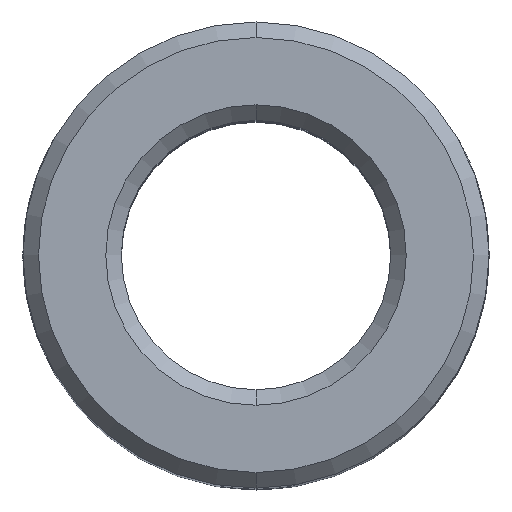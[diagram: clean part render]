
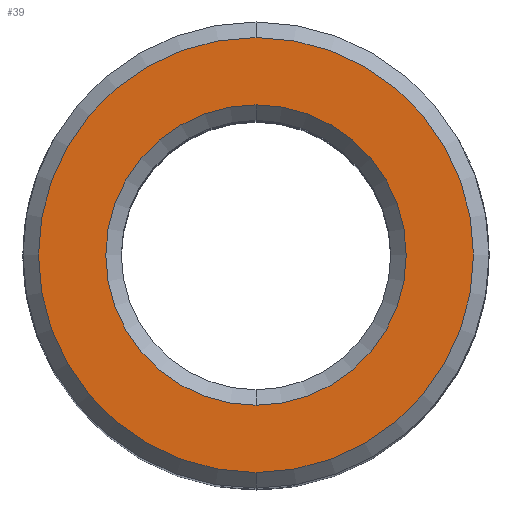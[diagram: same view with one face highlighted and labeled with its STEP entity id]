
A CAD part, top view. The second image highlights one B-rep face of the part: STEP entity #39.
In plain terms, the highlighted planar face has unit normal (0, 0, 1).
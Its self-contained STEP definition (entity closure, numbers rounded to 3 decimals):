
#36 = CARTESIAN_POINT ( 'NONE',  ( 0., 0., 0. ) ) ;
#38 = EDGE_LOOP ( 'NONE', ( #695, #1086 ) ) ;
#39 = ADVANCED_FACE ( 'NONE', ( #717, #691 ), #108, .F. ) ;
#81 = VERTEX_POINT ( 'NONE', #944 ) ;
#93 = CIRCLE ( 'NONE', #209, 29. ) ;
#108 = PLANE ( 'NONE',  #1098 ) ;
#141 = AXIS2_PLACEMENT_3D ( 'NONE', #1030, #195, #1136 ) ;
#181 = EDGE_LOOP ( 'NONE', ( #661, #699 ) ) ;
#190 = DIRECTION ( 'NONE',  ( 0., 1., 0. ) ) ;
#195 = DIRECTION ( 'NONE',  ( 0., 0., 1. ) ) ;
#209 = AXIS2_PLACEMENT_3D ( 'NONE', #1240, #1243, #1247 ) ;
#216 = EDGE_CURVE ( 'NONE', #628, #767, #560, .T. ) ;
#243 = AXIS2_PLACEMENT_3D ( 'NONE', #799, #1450, #933 ) ;
#297 = EDGE_CURVE ( 'NONE', #767, #628, #1384, .T. ) ;
#316 = CIRCLE ( 'NONE', #243, 29. ) ;
#459 = EDGE_CURVE ( 'NONE', #81, #544, #316, .T. ) ;
#494 = CARTESIAN_POINT ( 'NONE',  ( 0., 42., 0. ) ) ;
#544 = VERTEX_POINT ( 'NONE', #1061 ) ;
#560 = CIRCLE ( 'NONE', #1370, 42. ) ;
#628 = VERTEX_POINT ( 'NONE', #1081 ) ;
#661 = ORIENTED_EDGE ( 'NONE', *, *, #297, .T. ) ;
#680 = DIRECTION ( 'NONE',  ( 0., 1., 0. ) ) ;
#691 = FACE_OUTER_BOUND ( 'NONE', #181, .T. ) ;
#695 = ORIENTED_EDGE ( 'NONE', *, *, #884, .T. ) ;
#699 = ORIENTED_EDGE ( 'NONE', *, *, #216, .T. ) ;
#717 = FACE_BOUND ( 'NONE', #38, .T. ) ;
#767 = VERTEX_POINT ( 'NONE', #494 ) ;
#799 = CARTESIAN_POINT ( 'NONE',  ( 0., 0., 0. ) ) ;
#884 = EDGE_CURVE ( 'NONE', #544, #81, #93, .T. ) ;
#933 = DIRECTION ( 'NONE',  ( 0., 1., 0. ) ) ;
#944 = CARTESIAN_POINT ( 'NONE',  ( 0., 29., 0. ) ) ;
#1025 = DIRECTION ( 'NONE',  ( 0., 0., 1. ) ) ;
#1030 = CARTESIAN_POINT ( 'NONE',  ( 0., 0., 0. ) ) ;
#1061 = CARTESIAN_POINT ( 'NONE',  ( 0., -29., 0. ) ) ;
#1081 = CARTESIAN_POINT ( 'NONE',  ( 0., -42., 0. ) ) ;
#1086 = ORIENTED_EDGE ( 'NONE', *, *, #459, .T. ) ;
#1098 = AXIS2_PLACEMENT_3D ( 'NONE', #1330, #1392, #680 ) ;
#1136 = DIRECTION ( 'NONE',  ( 0., 1., 0. ) ) ;
#1240 = CARTESIAN_POINT ( 'NONE',  ( 0., 0., 0. ) ) ;
#1243 = DIRECTION ( 'NONE',  ( 0., 0., -1. ) ) ;
#1247 = DIRECTION ( 'NONE',  ( 0., 1., 0. ) ) ;
#1330 = CARTESIAN_POINT ( 'NONE',  ( 0., 26., 0. ) ) ;
#1370 = AXIS2_PLACEMENT_3D ( 'NONE', #36, #1025, #190 ) ;
#1384 = CIRCLE ( 'NONE', #141, 42. ) ;
#1392 = DIRECTION ( 'NONE',  ( 0., 0., -1. ) ) ;
#1450 = DIRECTION ( 'NONE',  ( 0., 0., -1. ) ) ;
